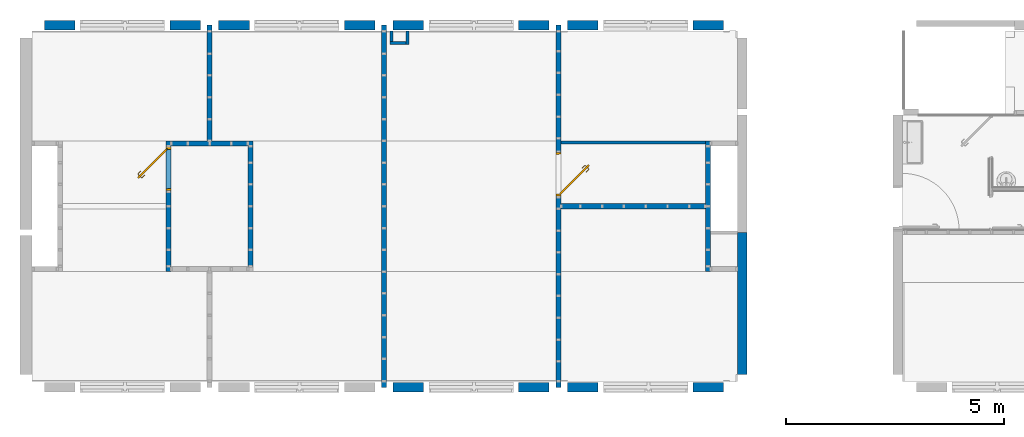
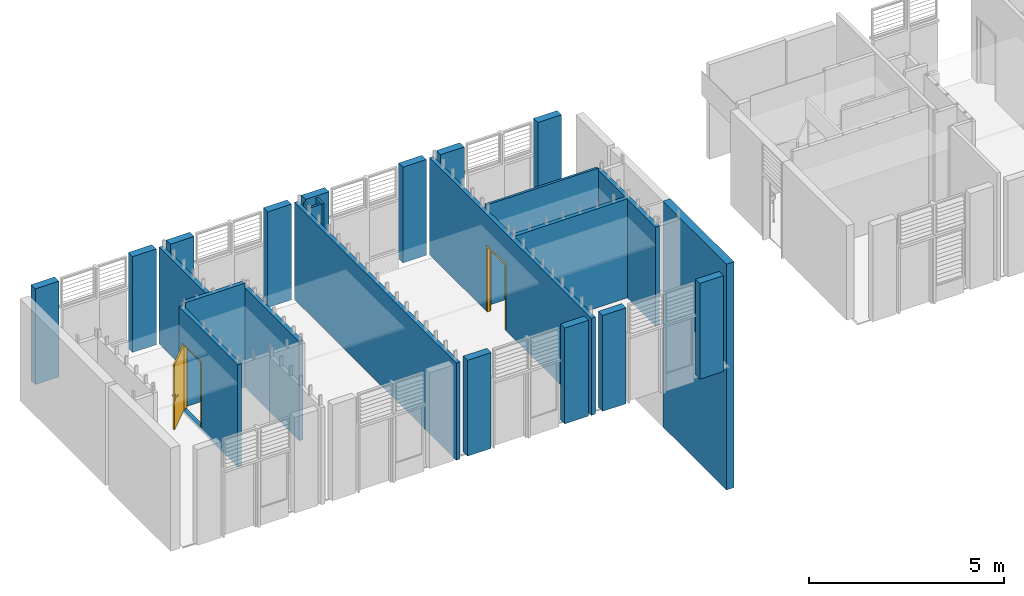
# One storey, part 5 of 20: 25 walls, 2 doors, 2 openings.
"""IFC2X3 building model written with IfcOpenShell, lengths in metres."""

from ifc_helpers import new_model, entity, si_unit, converted_unit, derived_unit, direction, frame, frame_2d, origin, place, context, subcontext, project, spatial, rectangle, extrude, faceted_brep, source, transform, mapped, material, layer, layer_set, layer_usage, type_object, type_shapes, element, fill, save


model = new_model("IFC2X3")

# Units and contexts
model_context = context("Model", 3, precision=1e-05, world=origin(), true_north=direction((6.12303176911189e-17, 1.0)))
body_context = subcontext(model_context, "Body", "Model", "MODEL_VIEW")
ifc_project = project(units=[si_unit("LENGTHUNIT", "METRE"), si_unit("AREAUNIT", "SQUARE_METRE"), si_unit("VOLUMEUNIT", "CUBIC_METRE"), converted_unit("PLANEANGLEUNIT", "DEGREE", entity("IfcRatioMeasure", 0.0174532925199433), si_unit("PLANEANGLEUNIT", "RADIAN"), dimensions=[0, 0, 0, 0, 0, 0, 0]), si_unit("MASSUNIT", "GRAM", prefix="KILO"), derived_unit("MASSDENSITYUNIT", [(si_unit("MASSUNIT", "GRAM", prefix="KILO"), 1), (si_unit("LENGTHUNIT", "METRE"), -3)]), si_unit("TIMEUNIT", "SECOND"), si_unit("FREQUENCYUNIT", "HERTZ"), si_unit("THERMODYNAMICTEMPERATUREUNIT", "DEGREE_CELSIUS"), derived_unit("THERMALTRANSMITTANCEUNIT", [(si_unit("MASSUNIT", "GRAM", prefix="KILO"), 1), (si_unit("THERMODYNAMICTEMPERATUREUNIT", "KELVIN"), -1), (si_unit("TIMEUNIT", "SECOND"), -3)]), derived_unit("VOLUMETRICFLOWRATEUNIT", [(si_unit("LENGTHUNIT", "METRE"), 3), (si_unit("TIMEUNIT", "SECOND"), -1)]), si_unit("ELECTRICCURRENTUNIT", "AMPERE"), si_unit("ELECTRICVOLTAGEUNIT", "VOLT"), si_unit("POWERUNIT", "WATT"), si_unit("FORCEUNIT", "NEWTON", prefix="KILO"), si_unit("ILLUMINANCEUNIT", "LUX"), si_unit("LUMINOUSFLUXUNIT", "LUMEN"), si_unit("LUMINOUSINTENSITYUNIT", "CANDELA"), derived_unit("USERDEFINED", [(si_unit("MASSUNIT", "GRAM", prefix="KILO"), -1), (si_unit("LENGTHUNIT", "METRE"), -2), (si_unit("TIMEUNIT", "SECOND"), 3), (si_unit("LUMINOUSFLUXUNIT", "LUMEN"), 1)]), derived_unit("LINEARVELOCITYUNIT", [(si_unit("LENGTHUNIT", "METRE"), 1), (si_unit("TIMEUNIT", "SECOND"), -1)]), si_unit("PRESSUREUNIT", "PASCAL"), derived_unit("USERDEFINED", [(si_unit("LENGTHUNIT", "METRE"), -2), (si_unit("MASSUNIT", "GRAM", prefix="KILO"), 1), (si_unit("TIMEUNIT", "SECOND"), -2)])], contexts=[model_context])

# Site, building, storey
site_placement = place(None, origin())
site = spatial("IfcSite", under=ifc_project, at=site_placement, Name="Surface", CompositionType="ELEMENT")
building_placement = place(site_placement, origin())
building = spatial("IfcBuilding", under=site, at=building_placement, Name="ExPREF", CompositionType="ELEMENT")
storey_placement = place(building_placement, frame((0.0, 0.0, 4.27)))
storey = spatial("IfcBuildingStorey", under=building, at=storey_placement, Name="R+1", CompositionType="ELEMENT", Elevation=4.27)

# Walls
ifc_material_1 = material(Name="AA-mur cloison finition")
ifc_layer_1 = layer(ifc_material_1, 0.018)
ifc_material_2 = material(Name="AA-isolant plancher")
ifc_layer_2 = layer(ifc_material_2, 0.08)
ifc_layer_3 = layer(ifc_material_1, 0.018)
ifc_layer_set_1 = layer_set([ifc_layer_1, ifc_layer_2, ifc_layer_3], Name="Mur de base:A-cloison CP 11.6 cm")
ifc_layer_usage_1 = layer_usage(ifc_layer_set_1, "AXIS2", "NEGATIVE", 0.058)
wall_type_1 = type_object("IfcWallType", Name="Mur de base:A-cloison CP 11.6 cm", PredefinedType="STANDARD", material=ifc_layer_set_1)
wall_1_placement = place(storey_placement, frame((29.4897436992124, -185.056488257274, 0.0), z_axis=(0.0, 0.0, 1.0), x_axis=(0.0, -1.0, 0.0)))
element("IfcWallStandardCase", 1, at=wall_1_placement, inside=storey, type_object=wall_type_1, material=ifc_layer_usage_1, Name="Mur de base:A-cloison CP 11.6 cm", ObjectType="Mur de base:A-cloison CP 11.6 cm", context=body_context, shape_type="SweptSolid", body=[
    extrude(rectangle(XDim=2.65158136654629, YDim=0.116, at=frame_2d((1.32579068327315, -8.67361737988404e-17), x_axis=(-1.0, 0.0))), origin(), (0.0, 0.0, 1.0), 3.04),
])
ifc_layer_usage_2 = layer_usage(ifc_layer_set_1, "AXIS2", "NEGATIVE", 0.058)
wall_2_placement = place(storey_placement, frame((37.5477436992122, -189.20806962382, 0.0)))
element("IfcWallStandardCase", 2, at=wall_2_placement, inside=storey, type_object=wall_type_1, material=ifc_layer_usage_2, Name="Mur de base:A-cloison CP 11.6 cm", ObjectType="Mur de base:A-cloison CP 11.6 cm", context=body_context, shape_type="SweptSolid", body=[
    extrude(rectangle(XDim=3.3139999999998, YDim=0.115999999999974, at=frame_2d((1.6569999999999, 0.0), x_axis=(-1.0, 0.0))), origin(), (0.0, 0.0, 1.0), 3.1),
])
ifc_layer_usage_3 = layer_usage(ifc_layer_set_1, "AXIS2", "NEGATIVE", 0.058)
wall_3_placement = place(storey_placement, frame((33.4897436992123, -185.056488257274, 0.0), z_axis=(0.0, 0.0, 1.0), x_axis=(0.0, -1.0, 0.0)))
element("IfcWallStandardCase", 3, at=wall_3_placement, inside=storey, type_object=wall_type_1, material=ifc_layer_usage_3, Name="Mur de base:A-cloison CP 11.6 cm", ObjectType="Mur de base:A-cloison CP 11.6 cm", context=body_context, shape_type="SweptSolid", body=[
    extrude(rectangle(XDim=8.30316304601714, YDim=0.116, at=frame_2d((4.15158152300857, 0.0), x_axis=(-1.0, 0.0))), origin(), (0.0, 0.0, 1.0), 3.04),
])

# Wall, opening, door
ifc_layer_usage_4 = layer_usage(ifc_layer_set_1, "AXIS2", "NEGATIVE", 0.058)
wall_4_placement = place(storey_placement, frame((37.4897436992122, -185.056488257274, 0.0), z_axis=(0.0, 0.0, 1.0), x_axis=(0.0, -1.0, 0.0)))
wall_4 = element("IfcWallStandardCase", 4, at=wall_4_placement, inside=storey, type_object=wall_type_1, material=ifc_layer_usage_4, Name="Mur de base:A-cloison CP 11.6 cm", ObjectType="Mur de base:A-cloison CP 11.6 cm", context=body_context, shape_type="SweptSolid", body=[
    extrude(rectangle(XDim=8.30316304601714, YDim=0.116, at=frame_2d((4.15158152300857, 0.0), x_axis=(-1.0, 0.0))), origin(), (0.0, 0.0, 1.0), 3.04),
])
opening_1_placement = place(wall_4_placement, frame((2.91810095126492, -0.0579999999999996, 0.0)))
opening_1 = element("IfcOpeningElement", 5, at=opening_1_placement, cuts=wall_4, Name="Porte intérieur bois:PP (0.93m x 2.04m):1", ObjectType="Opening", context=body_context, shape_type="SweptSolid", body=[
    extrude(rectangle(XDim=2.075, YDim=1.0, at=frame_2d((1.0375, 0.5), x_axis=(1.0, 0.0))), frame((0.0, 0.0, 0.0), z_axis=(0.0, 1.0, 0.0), x_axis=(0.0, 0.0, 1.0)), (0.0, 0.0, 1.0), 0.116),
])
ifc_material_3 = material(Name="AA-Blanc satiné")
door_style = type_object("IfcDoorStyle", Name="PP (0.93m x 2.04m)", ConstructionType="NOTDEFINED", OperationType="SINGLE_SWING_RIGHT", ParameterTakesPrecedence=False, Sizeable=False, material=ifc_material_3)
shared_shape = source(origin(), body_context, "Body", "Brep", [
    faceted_brep([(0.750570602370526, -0.581930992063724, 0.992219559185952), (0.753434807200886, -0.584795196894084, 0.99221955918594), (0.756245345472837, -0.587605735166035, 0.992999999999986), (0.756245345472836, -0.587605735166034, 1.007), (0.75343480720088, -0.584795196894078, 1.00778044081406), (0.75057060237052, -0.581930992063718, 1.00778044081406), (0.747760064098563, -0.579120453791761, 1.007), (0.747760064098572, -0.57912045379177, 0.993000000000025), (0.763659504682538, -0.563221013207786, 1.007), (0.763659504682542, -0.563221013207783, 0.993000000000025), (0.767634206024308, -0.56486738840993, 1.00778044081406), (0.771684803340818, -0.56654520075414, 1.00778044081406), (0.771684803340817, -0.543654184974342, 1.00778044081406), (0.767634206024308, -0.545331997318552, 1.00778044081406), (0.775659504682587, -0.568191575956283, 1.007), (0.775659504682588, -0.568191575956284, 0.992999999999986), (0.771684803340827, -0.566545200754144, 0.99221955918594), (0.767634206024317, -0.564867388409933, 0.992219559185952), (0.767634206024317, -0.545331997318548, 0.992219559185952), (0.771684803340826, -0.543654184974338, 0.99221955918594), (0.763659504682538, -0.546978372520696, 1.007), (0.763659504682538, -0.546978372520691, 0.993000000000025), (0.775659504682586, -0.542007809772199, 1.007), (0.775659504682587, -0.542007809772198, 0.992999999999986), (0.708090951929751, -0.485788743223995, 1.00778044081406), (0.710955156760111, -0.482924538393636, 1.00778044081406), (0.713765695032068, -0.480114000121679, 1.007), (0.713765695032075, -0.480114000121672, 0.992999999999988), (0.710955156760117, -0.48292453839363, 0.99221955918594), (0.708090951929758, -0.485788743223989, 0.992219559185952), (0.705280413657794, -0.488599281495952, 0.993000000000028), (0.705280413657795, -0.488599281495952, 1.007), (0.734469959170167, -0.517788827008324, 1.007), (0.734469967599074, -0.517788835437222, 0.993000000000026), (0.739294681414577, -0.51412826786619, 1.0078786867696), (0.747424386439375, -0.513772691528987, 1.007), (0.747424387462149, -0.513772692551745, 0.992999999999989), (0.739294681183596, -0.514128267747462, 0.992121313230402)], [[[0, 1, 2, 3, 4, 5, 6, 7]], [[8, 9, 7, 6]], [[5, 10, 8, 6]], [[5, 4, 11, 12, 13, 10]], [[3, 14, 11, 4]], [[14, 3, 2, 15]], [[2, 1, 16, 15]], [[1, 0, 17, 18, 19, 16]], [[0, 7, 9, 17]], [[20, 21, 9, 8]], [[8, 10, 13, 20]], [[14, 22, 12, 11]], [[23, 22, 14, 15]], [[15, 16, 19, 23]], [[17, 9, 21, 18]], [[24, 25, 26, 27, 28, 29, 30, 31]], [[21, 20, 32, 31, 30, 33]], [[34, 24, 32]], [[25, 34, 35]], [[13, 32, 20]], [[24, 31, 32]], [[25, 35, 26]], [[35, 12, 22]], [[34, 12, 35]], [[34, 13, 12]], [[34, 32, 13]], [[24, 34, 25]], [[22, 23, 36, 27, 26, 35]], [[37, 28, 36]], [[36, 28, 27]], [[36, 23, 19]], [[18, 33, 37]], [[33, 18, 21]], [[30, 29, 33]], [[37, 29, 28]], [[37, 33, 29]], [[37, 36, 19]], [[18, 37, 19]]]),
    faceted_brep([(0.715215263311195, -0.617286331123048, 1.00778044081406), (0.718079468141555, -0.620150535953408, 1.00778044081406), (0.720890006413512, -0.622961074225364, 1.00699999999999), (0.720890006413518, -0.622961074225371, 0.992999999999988), (0.718079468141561, -0.620150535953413, 0.99221955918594), (0.715215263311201, -0.617286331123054, 0.992219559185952), (0.712404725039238, -0.614475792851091, 0.993000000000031), (0.712404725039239, -0.614475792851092, 1.007), (0.699691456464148, -0.638538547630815, 1.00778044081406), (0.701337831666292, -0.642513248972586, 1.007), (0.698013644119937, -0.634487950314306, 1.00778044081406), (0.678672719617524, -0.634487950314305, 1.00778044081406), (0.676994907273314, -0.638538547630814, 1.00778044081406), (0.696367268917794, -0.630513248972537, 1.007), (0.696367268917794, -0.630513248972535, 0.993000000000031), (0.698013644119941, -0.634487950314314, 0.992219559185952), (0.699691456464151, -0.638538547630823, 0.99221955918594), (0.676994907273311, -0.638538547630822, 0.99221955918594), (0.678672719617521, -0.634487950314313, 0.992219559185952), (0.701337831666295, -0.642513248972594, 0.992999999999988), (0.67534853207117, -0.642513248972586, 1.007), (0.680319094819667, -0.630513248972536, 1.007), (0.680319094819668, -0.630513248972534, 0.993000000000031), (0.675348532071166, -0.642513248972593, 0.992999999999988), (0.613376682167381, -0.580541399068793, 1.007), (0.616187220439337, -0.577730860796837, 1.00778044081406), (0.619051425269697, -0.574866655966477, 1.00778044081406), (0.621861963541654, -0.57205611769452, 1.00699999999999), (0.621861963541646, -0.572056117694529, 0.993000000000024), (0.619051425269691, -0.574866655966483, 0.992219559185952), (0.616187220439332, -0.577730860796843, 0.99221955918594), (0.613376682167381, -0.580541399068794, 0.992999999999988), (0.647429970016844, -0.606109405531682, 1.0078786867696), (0.647113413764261, -0.614278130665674, 1.007), (0.651090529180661, -0.601284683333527, 1.007), (0.651090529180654, -0.601284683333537, 0.993000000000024), (0.64742997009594, -0.606109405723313, 0.992121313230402), (0.64711341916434, -0.61427813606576, 0.992999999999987)], [[[0, 1, 2, 3, 4, 5, 6, 7]], [[2, 1, 8, 9]], [[1, 0, 10, 11, 12, 8]], [[0, 7, 13, 10]], [[14, 13, 7, 6]], [[5, 15, 14, 6]], [[5, 4, 16, 17, 18, 15]], [[3, 19, 16, 4]], [[9, 19, 3, 2]], [[9, 8, 12, 20]], [[10, 13, 21, 11]], [[22, 21, 13, 14]], [[14, 15, 18, 22]], [[16, 19, 23, 17]], [[20, 23, 19, 9]], [[24, 25, 26, 27, 28, 29, 30, 31]], [[32, 25, 33]], [[33, 25, 24]], [[33, 20, 12]], [[11, 34, 32]], [[34, 11, 21]], [[27, 26, 34]], [[32, 26, 25]], [[32, 34, 26]], [[32, 33, 12]], [[11, 32, 12]], [[21, 22, 35, 28, 27, 34]], [[36, 29, 35]], [[30, 36, 37]], [[18, 35, 22]], [[29, 28, 35]], [[30, 37, 31]], [[37, 17, 23]], [[36, 17, 37]], [[36, 18, 17]], [[36, 35, 18]], [[29, 36, 30]], [[23, 20, 33, 24, 31, 37]]]),
    faceted_brep([(0.762609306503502, -0.601040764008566, 0.870000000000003), (0.762609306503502, -0.601040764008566, 1.08), (0.75578767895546, -0.594219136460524, 1.08399601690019), (0.748467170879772, -0.586898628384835, 1.08535898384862), (0.741146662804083, -0.579578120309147, 1.08399601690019), (0.734325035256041, -0.572756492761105, 1.08), (0.73432503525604, -0.572756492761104, 0.870000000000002), (0.741146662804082, -0.579578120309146, 0.866003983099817), (0.748467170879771, -0.586898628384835, 0.86464101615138), (0.755787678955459, -0.594219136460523, 0.866003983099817), (0.752002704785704, -0.583363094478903, 1.08535898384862), (0.759323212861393, -0.590683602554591, 1.08399601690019), (0.766144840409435, -0.597505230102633, 1.08), (0.766144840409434, -0.597505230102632, 0.870000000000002), (0.759323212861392, -0.59068360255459, 0.866003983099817), (0.752002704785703, -0.583363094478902, 0.86464101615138), (0.744682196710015, -0.576042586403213, 0.866003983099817), (0.737860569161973, -0.569220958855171, 0.870000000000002), (0.737860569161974, -0.569220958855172, 1.08), (0.744682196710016, -0.576042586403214, 1.08399601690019)], [[[0, 1, 2, 3, 4, 5, 6, 7, 8, 9]], [[10, 11, 12, 13, 14, 15, 16, 17, 18, 19]], [[4, 19, 18, 5]], [[3, 10, 19, 4]], [[2, 11, 10, 3]], [[2, 1, 12, 11]], [[13, 12, 1, 0]], [[9, 14, 13, 0]], [[8, 15, 14, 9]], [[7, 16, 15, 8]], [[7, 6, 17, 16]], [[17, 6, 5, 18]]]),
    faceted_brep([(0.730789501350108, -0.632860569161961, 0.870000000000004), (0.730789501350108, -0.632860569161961, 1.08), (0.723967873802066, -0.626038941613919, 1.08399601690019), (0.716647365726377, -0.61871843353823, 1.08535898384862), (0.709326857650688, -0.611397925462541, 1.08399601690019), (0.702505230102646, -0.604576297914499, 1.08), (0.702505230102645, -0.604576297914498, 0.870000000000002), (0.709326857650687, -0.61139792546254, 0.866003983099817), (0.716647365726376, -0.618718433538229, 0.86464101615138), (0.723967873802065, -0.626038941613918, 0.866003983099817), (0.73432503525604, -0.629325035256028, 1.08), (0.73432503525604, -0.629325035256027, 0.870000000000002), (0.727503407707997, -0.622503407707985, 0.866003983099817), (0.720182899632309, -0.615182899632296, 0.86464101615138), (0.71286239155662, -0.607862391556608, 0.866003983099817), (0.706040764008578, -0.601040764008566, 0.870000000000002), (0.706040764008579, -0.601040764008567, 1.08), (0.712862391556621, -0.607862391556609, 1.08399601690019), (0.72018289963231, -0.615182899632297, 1.08535898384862), (0.727503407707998, -0.622503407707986, 1.08399601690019)], [[[0, 1, 2, 3, 4, 5, 6, 7, 8, 9]], [[10, 11, 12, 13, 14, 15, 16, 17, 18, 19]], [[9, 12, 11, 0]], [[8, 13, 12, 9]], [[7, 14, 13, 8]], [[7, 6, 15, 14]], [[15, 6, 5, 16]], [[4, 17, 16, 5]], [[3, 18, 17, 4]], [[2, 19, 18, 3]], [[2, 1, 10, 19]], [[11, 10, 1, 0]]]),
    faceted_brep([(0.790893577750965, -0.629325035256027, 2.04), (0.790893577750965, -0.629325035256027, 0.0), (0.133284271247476, 0.0282842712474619, 0.0), (0.133284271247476, 0.0282842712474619, 2.04), (0.762609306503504, -0.657609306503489, 2.04), (0.105000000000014, 0.0, 2.04), (0.105000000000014, 0.0, 0.0), (0.762609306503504, -0.657609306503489, 0.0)], [[[0, 1, 2, 3]], [[4, 5, 6, 7]], [[3, 5, 4, 0]], [[2, 6, 5, 3]], [[1, 7, 6, 2]], [[0, 4, 7, 1]]]),
    faceted_brep([(1.07000000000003, 0.0, 0.0), (1.03500000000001, 0.0, 0.0), (1.03500000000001, 0.0400000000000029, 0.0), (1.02000000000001, 0.0400000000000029, 0.0), (1.02000000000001, 0.116000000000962, 0.0), (1.07000000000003, 0.116000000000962, 0.0), (1.07000000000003, 0.116000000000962, 2.07500000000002), (1.07000000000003, 0.0, 2.07500000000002), (1.02000000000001, 0.116000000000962, 2.025), (0.120000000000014, 0.116000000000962, 2.025), (0.120000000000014, 0.116000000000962, 0.0), (0.0699999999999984, 0.116000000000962, 0.0), (0.0699999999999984, 0.116000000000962, 2.07500000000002), (1.02000000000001, 0.0400000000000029, 2.025), (1.03500000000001, 0.0400000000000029, 2.04), (0.105000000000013, 0.0400000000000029, 2.04), (0.105000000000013, 0.0400000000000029, 0.0), (0.120000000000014, 0.0400000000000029, 0.0), (0.120000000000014, 0.0400000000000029, 2.025), (1.03500000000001, 0.0, 2.04), (0.0699999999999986, 0.0, 2.07500000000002), (0.0699999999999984, 0.0, 0.0), (0.105000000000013, 0.0, 0.0), (0.105000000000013, 0.0, 2.04)], [[[0, 1, 2, 3, 4, 5]], [[5, 6, 7, 0]], [[4, 8, 9, 10, 11, 12, 6, 5]], [[3, 13, 8, 4]], [[2, 14, 15, 16, 17, 18, 13, 3]], [[1, 19, 14, 2]], [[0, 7, 20, 21, 22, 23, 19, 1]], [[12, 11, 21, 20]], [[21, 11, 10, 17, 16, 22]], [[18, 17, 10, 9]], [[23, 22, 16, 15]], [[6, 12, 20, 7]], [[13, 18, 9, 8]], [[19, 23, 15, 14]]]),
])
type_shapes(door_style, [shared_shape])
door_1_placement = place(opening_1_placement, frame((1.06999999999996, 0.115999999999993, 0.0), z_axis=(0.0, 0.0, 1.0), x_axis=(-1.0, 0.0, 0.0)))
door_1 = element("IfcDoor", 6, at=door_1_placement, inside=storey, type_object=door_style, material=ifc_material_3, Name="Porte intérieur bois:PP (0.93m x 2.04m)", ObjectType="PP (0.93m x 2.04m)", OverallHeight=2.075, OverallWidth=1.00000000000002, context=body_context, shape_type="MappedRepresentation", body=[
    mapped(shared_shape, transform((0.0, 0.0, 0.0), scale=1.0)),
])
fill(opening_1, door_1)

# Wall
ifc_layer_usage_5 = layer_usage(ifc_layer_set_1, "AXIS2", "POSITIVE", -0.058)
wall_5_placement = place(storey_placement, frame((40.919743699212, -187.70806962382, -0.00999999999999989), z_axis=(0.0, 0.0, 1.0), x_axis=(0.0, -1.0, 0.0)))
element("IfcWallStandardCase", 7, at=wall_5_placement, inside=storey, type_object=wall_type_1, material=ifc_layer_usage_5, Name="Mur de base:A-cloison CP 11.6 cm", ObjectType="Mur de base:A-cloison CP 11.6 cm", context=body_context, shape_type="SweptSolid", body=[
    extrude(rectangle(XDim=2.99999999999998, YDim=0.116000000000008, at=frame_2d((1.49999999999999, 0.0), x_axis=(-1.0, 0.0))), origin(), (0.0, 0.0, 1.0), 3.1),
])

# Wall, opening, door
ifc_layer_usage_6 = layer_usage(ifc_layer_set_1, "AXIS2", "POSITIVE", -0.058)
wall_6_placement = place(storey_placement, frame((28.5477436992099, -187.70806962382, -0.0900000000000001), z_axis=(0.0, 0.0, 1.0), x_axis=(0.0, -1.0, 0.0)))
wall_6 = element("IfcWallStandardCase", 8, at=wall_6_placement, inside=storey, type_object=wall_type_1, material=ifc_layer_usage_6, Name="Mur de base:A-cloison CP 11.6 cm", ObjectType="Mur de base:A-cloison CP 11.6 cm", context=body_context, shape_type="SweptSolid", body=[
    extrude(rectangle(XDim=3.00000000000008, YDim=0.116, at=frame_2d((1.50000000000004, 9.8879238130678e-16), x_axis=(-1.0, 0.0))), origin(), (0.0, 0.0, 1.0), 3.2),
])
opening_2_placement = place(wall_6_placement, frame((1.14300000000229, 0.0579999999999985, 0.0900000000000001)))
opening_2 = element("IfcOpeningElement", 9, at=opening_2_placement, cuts=wall_6, Name="Porte intérieur bois:PP (0.93m x 2.04m):1", ObjectType="Opening", context=body_context, shape_type="SweptSolid", body=[
    extrude(rectangle(XDim=2.075, YDim=1.0, at=frame_2d((1.0375, 0.5), x_axis=(1.0, 0.0))), frame((0.0, 0.0, 0.0), z_axis=(0.0, -1.0, 0.0), x_axis=(0.0, 0.0, 1.0)), (0.0, 0.0, 1.0), 0.116),
])
door_2_placement = place(opening_2_placement, frame((-1.07000000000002, -0.115999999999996, 0.0)))
door_2 = element("IfcDoor", 10, at=door_2_placement, inside=storey, type_object=door_style, material=ifc_material_3, Name="Porte intérieur bois:PP (0.93m x 2.04m)", ObjectType="PP (0.93m x 2.04m)", OverallHeight=2.075, OverallWidth=1.00000000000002, context=body_context, shape_type="MappedRepresentation", body=[
    mapped(shared_shape, transform((0.0, 0.0, 0.0), scale=1.0)),
])
fill(opening_2, door_2)

# Walls
ifc_layer_usage_7 = layer_usage(ifc_layer_set_1, "AXIS2", "POSITIVE", -0.058)
wall_7_placement = place(storey_placement, frame((30.4317436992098, -190.59206962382, 0.0), z_axis=(0.0, 0.0, 1.0), x_axis=(0.0, 1.0, 0.0)))
element("IfcWallStandardCase", 11, at=wall_7_placement, inside=storey, type_object=wall_type_1, material=ifc_layer_usage_7, Name="Mur de base:A-cloison CP 11.6 cm", ObjectType="Mur de base:A-cloison CP 11.6 cm", context=body_context, shape_type="SweptSolid", body=[
    extrude(rectangle(XDim=2.88400000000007, YDim=0.116, at=frame_2d((1.44200000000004, 6.17561557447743e-16), x_axis=(-1.0, 0.0))), origin(), (0.0, 0.0, 1.0), 3.11),
])
ifc_layer_usage_8 = layer_usage(ifc_layer_set_1, "AXIS2", "POSITIVE", -0.058)
wall_8_placement = place(storey_placement, frame((30.3737436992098, -187.76606962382, 0.0), z_axis=(0.0, 0.0, 1.0), x_axis=(-1.0, 0.0, 0.0)))
element("IfcWallStandardCase", 12, at=wall_8_placement, inside=storey, type_object=wall_type_1, material=ifc_layer_usage_8, Name="Mur de base:A-cloison CP 11.6 cm", ObjectType="Mur de base:A-cloison CP 11.6 cm", context=body_context, shape_type="SweptSolid", body=[
    extrude(rectangle(XDim=1.76799999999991, YDim=0.115999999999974, at=frame_2d((0.883999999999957, 5.68989300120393e-15), x_axis=(-1.0, 0.0))), origin(), (0.0, 0.0, 1.0), 3.26),
])
ifc_material_4 = material(Name="AA-fermacell peint")
ifc_layer_4 = layer(ifc_material_4, 0.0125)
ifc_layer_5 = layer(ifc_material_2, 0.045)
ifc_layer_6 = layer(ifc_material_4, 0.0125)
ifc_layer_set_2 = layer_set([ifc_layer_4, ifc_layer_5, ifc_layer_6], Name="Mur de base:Générique - Int. 70 mm")
ifc_layer_usage_9 = layer_usage(ifc_layer_set_2, "AXIS2", "NEGATIVE", 0.035)
wall_type_2 = type_object("IfcWallType", Name="Mur de base:Générique - Int. 70 mm", PredefinedType="STANDARD", material=ifc_layer_set_2)
wall_9_placement = place(storey_placement, frame((37.5477436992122, -187.74306962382, 0.0)))
element("IfcWallStandardCase", 13, at=wall_9_placement, inside=storey, type_object=wall_type_2, material=ifc_layer_usage_9, Name="Mur de base:Générique - Int. 70 mm", ObjectType="Mur de base:Générique - Int. 70 mm", context=body_context, shape_type="SweptSolid", body=[
    extrude(rectangle(XDim=3.31399999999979, YDim=0.0700000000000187, at=frame_2d((1.6569999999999, 0.0), x_axis=(-1.0, 0.0))), origin(), (0.0, 0.0, 1.0), 3.16),
])
ifc_layer_usage_10 = layer_usage(ifc_layer_set_2, "AXIS2", "NEGATIVE", 0.035)
wall_10_placement = place(storey_placement, frame((34.0270617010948, -185.18648794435, 0.0), z_axis=(0.0, 0.0, 1.0), x_axis=(0.0, -1.0, 0.0)))
element("IfcWallStandardCase", 14, at=wall_10_placement, inside=storey, type_object=wall_type_2, material=ifc_layer_usage_10, Name="Mur de base:Générique - Int. 70 mm", ObjectType="Mur de base:Générique - Int. 70 mm", context=body_context, shape_type="SweptSolid", body=[
    extrude(rectangle(XDim=0.31000000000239, YDim=0.0700000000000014, at=frame_2d((0.155000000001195, 0.0), x_axis=(-1.0, 0.0))), origin(), (0.0, 0.0, 1.0), 3.05),
])
ifc_layer_usage_11 = layer_usage(ifc_layer_set_2, "AXIS2", "NEGATIVE", 0.035)
wall_11_placement = place(storey_placement, frame((33.6237451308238, -185.461487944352, 0.0)))
element("IfcWallStandardCase", 15, at=wall_11_placement, inside=storey, type_object=wall_type_2, material=ifc_layer_usage_11, Name="Mur de base:Générique - Int. 70 mm", ObjectType="Mur de base:Générique - Int. 70 mm", context=body_context, shape_type="SweptSolid", body=[
    extrude(rectangle(XDim=0.36831657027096, YDim=0.0700000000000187, at=frame_2d((0.18415828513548, 0.0), x_axis=(-1.0, 0.0))), origin(), (0.0, 0.0, 1.0), 3.05),
])
ifc_layer_usage_12 = layer_usage(ifc_layer_set_2, "AXIS2", "NEGATIVE", 0.035)
wall_12_placement = place(storey_placement, frame((33.6587451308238, -185.18648794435, 0.0), z_axis=(0.0, 0.0, 1.0), x_axis=(0.0, -1.0, 0.0)))
element("IfcWallStandardCase", 16, at=wall_12_placement, inside=storey, type_object=wall_type_2, material=ifc_layer_usage_12, Name="Mur de base:Générique - Int. 70 mm", ObjectType="Mur de base:Générique - Int. 70 mm", context=body_context, shape_type="SweptSolid", body=[
    extrude(rectangle(XDim=0.240000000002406, YDim=0.0700000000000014, at=frame_2d((0.120000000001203, 0.0), x_axis=(-1.0, 0.0))), origin(), (0.0, 0.0, 1.0), 3.05),
])
ifc_material_5 = material(Name="AA-BTC")
ifc_layer_7 = layer(ifc_material_5, 0.22)
ifc_layer_set_3 = layer_set([ifc_layer_7], Name="Mur de base:A-prémur BTC")
ifc_layer_usage_13 = layer_usage(ifc_layer_set_3, "AXIS2", "NEGATIVE", 0.11)
wall_type_3 = type_object("IfcWallType", Name="Mur de base:A-prémur BTC", PredefinedType="STANDARD", material=ifc_layer_set_3)
wall_13_placement = place(storey_placement, frame((33.6997436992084, -193.359651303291, 0.0999999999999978)))
element("IfcWallStandardCase", 17, at=wall_13_placement, inside=storey, type_object=wall_type_3, material=ifc_layer_usage_13, Name="Mur de base:A-prémur BTC", ObjectType="Mur de base:A-prémur BTC", context=body_context, shape_type="SweptSolid", body=[
    extrude(rectangle(XDim=0.700000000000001, YDim=0.220000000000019, at=frame_2d((0.350000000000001, 0.0), x_axis=(-1.0, 0.0))), origin(), (0.0, 0.0, 1.0), 3.0),
])
ifc_layer_usage_14 = layer_usage(ifc_layer_set_3, "AXIS2", "POSITIVE", -0.11)
wall_14_placement = place(storey_placement, frame((37.2797436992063, -193.359651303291, 0.0999999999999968), z_axis=(0.0, 0.0, 1.0), x_axis=(-1.0, 0.0, 0.0)))
element("IfcWallStandardCase", 18, at=wall_14_placement, inside=storey, type_object=wall_type_3, material=ifc_layer_usage_14, Name="Mur de base:A-prémur BTC", ObjectType="Mur de base:A-prémur BTC", context=body_context, shape_type="SweptSolid", body=[
    extrude(rectangle(XDim=0.700000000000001, YDim=0.220000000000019, at=frame_2d((0.350000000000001, 0.0), x_axis=(-1.0, 0.0))), origin(), (0.0, 0.0, 1.0), 3.0),
])
ifc_layer_usage_15 = layer_usage(ifc_layer_set_3, "AXIS2", "NEGATIVE", 0.11)
wall_15_placement = place(storey_placement, frame((37.6997436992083, -193.359651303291, 0.0999999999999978)))
element("IfcWallStandardCase", 19, at=wall_15_placement, inside=storey, type_object=wall_type_3, material=ifc_layer_usage_15, Name="Mur de base:A-prémur BTC", ObjectType="Mur de base:A-prémur BTC", context=body_context, shape_type="SweptSolid", body=[
    extrude(rectangle(XDim=0.700000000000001, YDim=0.220000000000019, at=frame_2d((0.350000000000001, 0.0), x_axis=(-1.0, 0.0))), origin(), (0.0, 0.0, 1.0), 3.0),
])
ifc_layer_usage_16 = layer_usage(ifc_layer_set_3, "AXIS2", "POSITIVE", -0.11)
wall_16_placement = place(storey_placement, frame((41.2797436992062, -193.359651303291, 0.0999999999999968), z_axis=(0.0, 0.0, 1.0), x_axis=(-1.0, 0.0, 0.0)))
element("IfcWallStandardCase", 20, at=wall_16_placement, inside=storey, type_object=wall_type_3, material=ifc_layer_usage_16, Name="Mur de base:A-prémur BTC", ObjectType="Mur de base:A-prémur BTC", context=body_context, shape_type="SweptSolid", body=[
    extrude(rectangle(XDim=0.699999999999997, YDim=0.220000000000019, at=frame_2d((0.349999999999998, 0.0), x_axis=(-1.0, 0.0))), origin(), (0.0, 0.0, 1.0), 3.0),
])
ifc_layer_usage_17 = layer_usage(ifc_layer_set_3, "AXIS2", "POSITIVE", -0.11)
wall_17_placement = place(storey_placement, frame((29.6997436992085, -185.056487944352, 0.0999999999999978)))
element("IfcWallStandardCase", 21, at=wall_17_placement, inside=storey, type_object=wall_type_3, material=ifc_layer_usage_17, Name="Mur de base:A-prémur BTC", ObjectType="Mur de base:A-prémur BTC", context=body_context, shape_type="SweptSolid", body=[
    extrude(rectangle(XDim=0.700000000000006, YDim=0.220000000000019, at=frame_2d((0.350000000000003, 3.77475828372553e-15), x_axis=(-1.0, 0.0))), origin(), (0.0, 0.0, 1.0), 3.0),
])
ifc_layer_usage_18 = layer_usage(ifc_layer_set_3, "AXIS2", "NEGATIVE", 0.11)
wall_18_placement = place(storey_placement, frame((33.2797436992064, -185.056487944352, 0.0999999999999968), z_axis=(0.0, 0.0, 1.0), x_axis=(-1.0, 0.0, 0.0)))
element("IfcWallStandardCase", 22, at=wall_18_placement, inside=storey, type_object=wall_type_3, material=ifc_layer_usage_18, Name="Mur de base:A-prémur BTC", ObjectType="Mur de base:A-prémur BTC", context=body_context, shape_type="SweptSolid", body=[
    extrude(rectangle(XDim=0.700000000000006, YDim=0.220000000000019, at=frame_2d((0.350000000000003, 3.77475828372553e-15), x_axis=(-1.0, 0.0))), origin(), (0.0, 0.0, 1.0), 3.0),
])
ifc_layer_usage_19 = layer_usage(ifc_layer_set_3, "AXIS2", "POSITIVE", -0.11)
wall_19_placement = place(storey_placement, frame((25.6997436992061, -185.056487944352, 0.0999999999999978)))
element("IfcWallStandardCase", 23, at=wall_19_placement, inside=storey, type_object=wall_type_3, material=ifc_layer_usage_19, Name="Mur de base:A-prémur BTC", ObjectType="Mur de base:A-prémur BTC", context=body_context, shape_type="SweptSolid", body=[
    extrude(rectangle(XDim=0.700000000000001, YDim=0.220000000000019, at=frame_2d((0.350000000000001, -6.93889390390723e-16), x_axis=(-1.0, 0.0))), origin(), (0.0, 0.0, 1.0), 3.0),
])
ifc_layer_usage_20 = layer_usage(ifc_layer_set_3, "AXIS2", "NEGATIVE", 0.11)
wall_20_placement = place(storey_placement, frame((29.279743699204, -185.056487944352, 0.0999999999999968), z_axis=(0.0, 0.0, 1.0), x_axis=(-1.0, 0.0, 0.0)))
element("IfcWallStandardCase", 24, at=wall_20_placement, inside=storey, type_object=wall_type_3, material=ifc_layer_usage_20, Name="Mur de base:A-prémur BTC", ObjectType="Mur de base:A-prémur BTC", context=body_context, shape_type="SweptSolid", body=[
    extrude(rectangle(XDim=0.700000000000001, YDim=0.220000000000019, at=frame_2d((0.350000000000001, -6.93889390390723e-16), x_axis=(-1.0, 0.0))), origin(), (0.0, 0.0, 1.0), 3.0),
])
ifc_layer_usage_21 = layer_usage(ifc_layer_set_3, "AXIS2", "POSITIVE", -0.11)
wall_21_placement = place(storey_placement, frame((33.699743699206, -185.056487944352, 0.0999999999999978)))
element("IfcWallStandardCase", 25, at=wall_21_placement, inside=storey, type_object=wall_type_3, material=ifc_layer_usage_21, Name="Mur de base:A-prémur BTC", ObjectType="Mur de base:A-prémur BTC", context=body_context, shape_type="SweptSolid", body=[
    extrude(rectangle(XDim=0.700000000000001, YDim=0.220000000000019, at=frame_2d((0.350000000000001, -6.93889390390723e-16), x_axis=(-1.0, 0.0))), origin(), (0.0, 0.0, 1.0), 3.0),
])
ifc_layer_usage_22 = layer_usage(ifc_layer_set_3, "AXIS2", "NEGATIVE", 0.11)
wall_22_placement = place(storey_placement, frame((37.2797436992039, -185.056487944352, 0.0999999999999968), z_axis=(0.0, 0.0, 1.0), x_axis=(-1.0, 0.0, 0.0)))
element("IfcWallStandardCase", 26, at=wall_22_placement, inside=storey, type_object=wall_type_3, material=ifc_layer_usage_22, Name="Mur de base:A-prémur BTC", ObjectType="Mur de base:A-prémur BTC", context=body_context, shape_type="SweptSolid", body=[
    extrude(rectangle(XDim=0.700000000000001, YDim=0.220000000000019, at=frame_2d((0.350000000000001, -6.93889390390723e-16), x_axis=(-1.0, 0.0))), origin(), (0.0, 0.0, 1.0), 3.0),
])
ifc_layer_usage_23 = layer_usage(ifc_layer_set_3, "AXIS2", "POSITIVE", -0.11)
wall_23_placement = place(storey_placement, frame((37.6997436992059, -185.056487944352, 0.0999999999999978)))
element("IfcWallStandardCase", 27, at=wall_23_placement, inside=storey, type_object=wall_type_3, material=ifc_layer_usage_23, Name="Mur de base:A-prémur BTC", ObjectType="Mur de base:A-prémur BTC", context=body_context, shape_type="SweptSolid", body=[
    extrude(rectangle(XDim=0.700000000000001, YDim=0.220000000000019, at=frame_2d((0.350000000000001, -6.93889390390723e-16), x_axis=(-1.0, 0.0))), origin(), (0.0, 0.0, 1.0), 3.0),
])
ifc_layer_usage_24 = layer_usage(ifc_layer_set_3, "AXIS2", "NEGATIVE", 0.11)
wall_24_placement = place(storey_placement, frame((41.2797436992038, -185.056487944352, 0.0999999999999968), z_axis=(0.0, 0.0, 1.0), x_axis=(-1.0, 0.0, 0.0)))
element("IfcWallStandardCase", 28, at=wall_24_placement, inside=storey, type_object=wall_type_3, material=ifc_layer_usage_24, Name="Mur de base:A-prémur BTC", ObjectType="Mur de base:A-prémur BTC", context=body_context, shape_type="SweptSolid", body=[
    extrude(rectangle(XDim=0.699999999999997, YDim=0.220000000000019, at=frame_2d((0.349999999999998, -6.93889390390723e-16), x_axis=(-1.0, 0.0))), origin(), (0.0, 0.0, 1.0), 3.0),
])
ifc_layer_usage_25 = layer_usage(ifc_layer_set_3, "AXIS2", "POSITIVE", -0.11)
wall_25_placement = place(storey_placement, frame((41.709743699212, -189.80806962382, -3.9700000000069), z_axis=(0.0, 0.0, 1.0), x_axis=(0.0, -1.0, 0.0)))
element("IfcWallStandardCase", 29, at=wall_25_placement, inside=storey, type_object=wall_type_3, material=ifc_layer_usage_25, Name="Mur de base:A-prémur BTC", ObjectType="Mur de base:A-prémur BTC", context=body_context, shape_type="SweptSolid", body=[
    extrude(rectangle(XDim=3.2615816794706, YDim=0.220000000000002, at=frame_2d((1.6307908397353, 0.0), x_axis=(-1.0, 0.0))), origin(), (0.0, 0.0, 1.0), 7.07000000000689),
])

save(model, "model.ifc")
